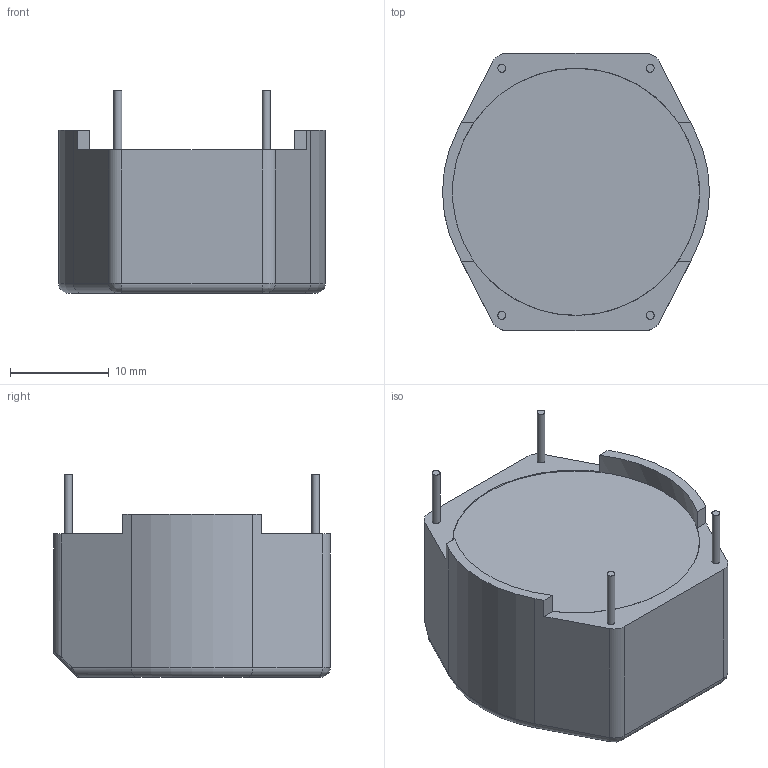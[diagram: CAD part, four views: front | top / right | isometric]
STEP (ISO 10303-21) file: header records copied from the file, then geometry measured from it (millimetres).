
FILE_DESCRIPTION((''),'2;1');
FILE_NAME('K:\CAD-PDM\Library\Inventor\3D format STEP file\3D RN-series\RN122.stp','2016-06-28T13:51:24',('jittrapon.maneerat'),(''),'Autodesk Inventor 2013','Autodesk Inventor 2013','');
FILE_SCHEMA(('AUTOMOTIVE_DESIGN { 1 0 10303 214 1 1 1 1 }'));
Length unit declared in the file: millimetre
Products named in the file (1): Part7
Bounding box: 27 x 28 x 20.51 mm (x, y, z)
Volume: 9140.2 mm3; surface area: 2801.3 mm2
Topology: 1 solids, 5 shells, 210 faces, 524 edges, 344 vertices
Faces by surface type: plane 146, bspline 38, cylinder 24, torus 2
Full cylindrical faces by diameter (mm): 0.76 x4, 0.8 x4, 25 x1
Entity records: 6734 total; most frequent: CARTESIAN_POINT 1685, ORIENTED_EDGE 1028, DIRECTION 855, EDGE_CURVE 514, VECTOR 391, LINE 391, VERTEX_POINT 343, EDGE_LOOP 239
